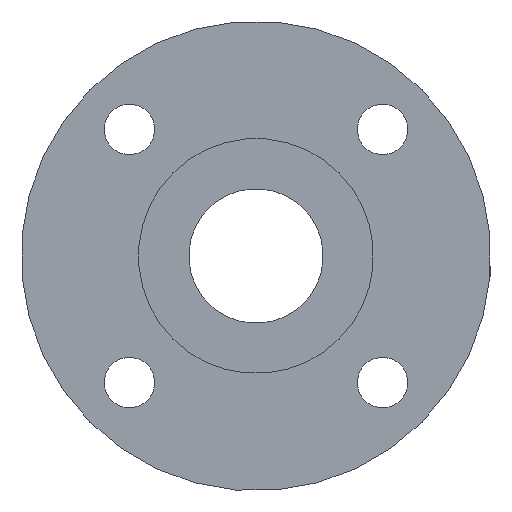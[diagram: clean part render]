
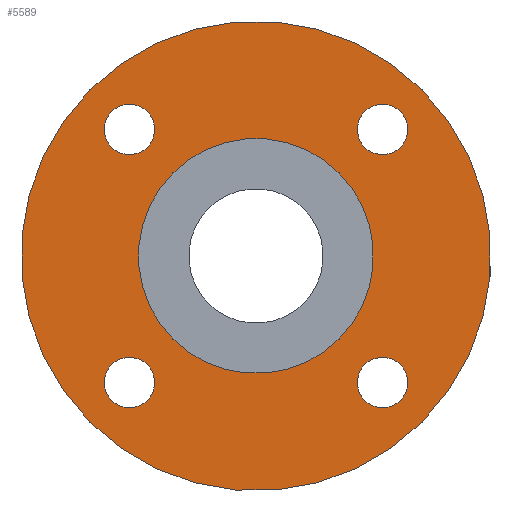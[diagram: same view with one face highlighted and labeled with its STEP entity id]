
A CAD part, left-side view. The second image highlights one B-rep face of the part: STEP entity #5589.
In plain terms, the highlighted planar face has unit normal (-1, 0, 0).
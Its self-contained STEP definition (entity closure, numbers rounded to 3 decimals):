
#110=CIRCLE('',#5944,10.5);
#112=CIRCLE('',#5949,2.25);
#113=CIRCLE('',#5950,2.25);
#114=CIRCLE('',#5951,2.25);
#115=CIRCLE('',#5952,2.25);
#116=CIRCLE('',#5953,21.);
#1713=ORIENTED_EDGE('',*,*,#3324,.T.);
#1714=ORIENTED_EDGE('',*,*,#3325,.T.);
#1715=ORIENTED_EDGE('',*,*,#3326,.T.);
#1716=ORIENTED_EDGE('',*,*,#3327,.T.);
#1717=ORIENTED_EDGE('',*,*,#3328,.F.);
#1718=ORIENTED_EDGE('',*,*,#3322,.T.);
#3322=EDGE_CURVE('',#4129,#4129,#110,.T.);
#3324=EDGE_CURVE('',#4131,#4131,#112,.T.);
#3325=EDGE_CURVE('',#4132,#4132,#113,.T.);
#3326=EDGE_CURVE('',#4133,#4133,#114,.T.);
#3327=EDGE_CURVE('',#4134,#4134,#115,.T.);
#3328=EDGE_CURVE('',#4135,#4135,#116,.T.);
#4129=VERTEX_POINT('',#8845);
#4131=VERTEX_POINT('',#8852);
#4132=VERTEX_POINT('',#8854);
#4133=VERTEX_POINT('',#8856);
#4134=VERTEX_POINT('',#8858);
#4135=VERTEX_POINT('',#8860);
#4587=EDGE_LOOP('',(#1713));
#4588=EDGE_LOOP('',(#1714));
#4589=EDGE_LOOP('',(#1715));
#4590=EDGE_LOOP('',(#1716));
#4591=EDGE_LOOP('',(#1717));
#4592=EDGE_LOOP('',(#1718));
#4986=FACE_BOUND('',#4587,.T.);
#4987=FACE_BOUND('',#4588,.T.);
#4988=FACE_BOUND('',#4589,.T.);
#4989=FACE_BOUND('',#4590,.T.);
#4990=FACE_BOUND('',#4591,.T.);
#4991=FACE_BOUND('',#4592,.T.);
#5333=PLANE('',#5948);
#5589=ADVANCED_FACE('',(#4986,#4987,#4988,#4989,#4990,#4991),#5333,.F.);
#5944=AXIS2_PLACEMENT_3D('',#8844,#6462,#6463);
#5948=AXIS2_PLACEMENT_3D('',#8850,#6470,#6471);
#5949=AXIS2_PLACEMENT_3D('',#8851,#6472,#6473);
#5950=AXIS2_PLACEMENT_3D('',#8853,#6474,#6475);
#5951=AXIS2_PLACEMENT_3D('',#8855,#6476,#6477);
#5952=AXIS2_PLACEMENT_3D('',#8857,#6478,#6479);
#5953=AXIS2_PLACEMENT_3D('',#8859,#6480,#6481);
#6462=DIRECTION('',(1.,0.,0.));
#6463=DIRECTION('',(0.,0.707,-0.707));
#6470=DIRECTION('',(1.,0.,0.));
#6471=DIRECTION('',(0.,0.707,-0.707));
#6472=DIRECTION('',(1.,0.,0.));
#6473=DIRECTION('',(0.,0.707,-0.707));
#6474=DIRECTION('',(1.,0.,0.));
#6475=DIRECTION('',(0.,0.707,-0.707));
#6476=DIRECTION('',(1.,0.,0.));
#6477=DIRECTION('',(0.,0.707,-0.707));
#6478=DIRECTION('',(1.,0.,0.));
#6479=DIRECTION('',(0.,0.707,-0.707));
#6480=DIRECTION('',(1.,0.,0.));
#6481=DIRECTION('',(0.,0.707,-0.707));
#8844=CARTESIAN_POINT('',(22.5,0.,0.));
#8845=CARTESIAN_POINT('',(22.5,7.425,-7.425));
#8850=CARTESIAN_POINT('',(22.5,0.,0.));
#8851=CARTESIAN_POINT('',(22.5,11.314,-11.314));
#8852=CARTESIAN_POINT('',(22.5,12.905,-12.905));
#8853=CARTESIAN_POINT('',(22.5,-11.314,-11.314));
#8854=CARTESIAN_POINT('',(22.5,-9.723,-12.905));
#8855=CARTESIAN_POINT('',(22.5,-11.314,11.314));
#8856=CARTESIAN_POINT('',(22.5,-9.723,9.723));
#8857=CARTESIAN_POINT('',(22.5,11.314,11.314));
#8858=CARTESIAN_POINT('',(22.5,12.905,9.723));
#8859=CARTESIAN_POINT('',(22.5,0.,0.));
#8860=CARTESIAN_POINT('',(22.5,14.849,-14.849));
